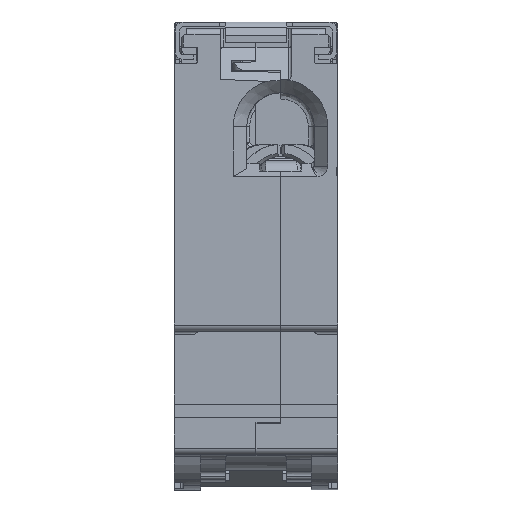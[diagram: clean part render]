
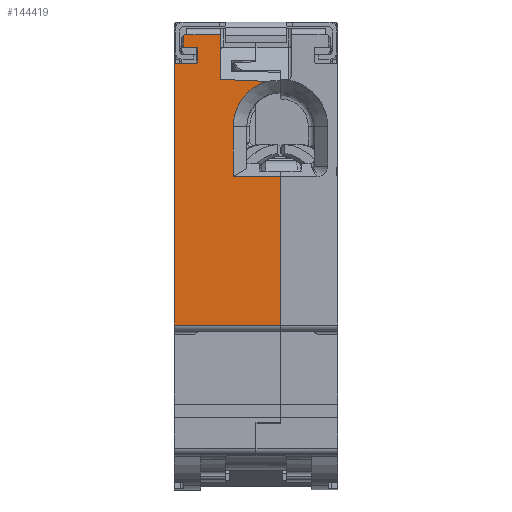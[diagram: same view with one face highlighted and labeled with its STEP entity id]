
A CAD part, left-side view. The second image highlights one B-rep face of the part: STEP entity #144419.
In plain terms, the highlighted planar face has unit normal (-1, 0, 0).
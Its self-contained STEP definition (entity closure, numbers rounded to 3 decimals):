
#1286 = CARTESIAN_POINT ( 'NONE',  ( -32.9, 22.8, 60.5 ) ) ;
#1630 = ORIENTED_EDGE ( 'NONE', *, *, #133896, .F. ) ;
#1695 = ORIENTED_EDGE ( 'NONE', *, *, #105043, .T. ) ;
#2163 = EDGE_CURVE ( 'NONE', #43042, #57099, #72910, .T. ) ;
#2171 = VERTEX_POINT ( 'NONE', #45574 ) ;
#3331 = EDGE_CURVE ( 'NONE', #99883, #41895, #149233, .T. ) ;
#3383 = ORIENTED_EDGE ( 'NONE', *, *, #157490, .T. ) ;
#8137 = CARTESIAN_POINT ( 'NONE',  ( -32.9, 25.2, 64.6 ) ) ;
#10448 = VERTEX_POINT ( 'NONE', #123854 ) ;
#11751 = AXIS2_PLACEMENT_3D ( 'NONE', #30036, #77953, #139132 ) ;
#11923 = VERTEX_POINT ( 'NONE', #72966 ) ;
#15973 = ORIENTED_EDGE ( 'NONE', *, *, #45195, .T. ) ;
#17702 = CIRCLE ( 'NONE', #133644, 0.2 ) ;
#19205 = EDGE_LOOP ( 'NONE', ( #149175, #136425, #20338, #53456, #83475, #83009, #1695, #156388, #15973, #85886, #51637, #1630, #41402, #3383, #65468, #68244 ) ) ;
#20027 = EDGE_CURVE ( 'NONE', #103694, #10448, #41009, .T. ) ;
#20338 = ORIENTED_EDGE ( 'NONE', *, *, #32963, .T. ) ;
#20746 = LINE ( 'NONE', #101038, #93219 ) ;
#21006 = CARTESIAN_POINT ( 'NONE',  ( -32.9, 25.4, 64.4 ) ) ;
#21203 = DIRECTION ( 'NONE',  ( 0., 1., 0. ) ) ;
#22835 = CARTESIAN_POINT ( 'NONE',  ( -32.9, 22.8, 62.756 ) ) ;
#23531 = LINE ( 'NONE', #108445, #149226 ) ;
#23912 = PLANE ( 'NONE',  #119433 ) ;
#24829 = CARTESIAN_POINT ( 'NONE',  ( -32.9, 26.6, 62.9 ) ) ;
#24879 = EDGE_CURVE ( 'NONE', #57099, #42939, #85369, .T. ) ;
#26220 = VECTOR ( 'NONE', #106198, 1000. ) ;
#30036 = CARTESIAN_POINT ( 'NONE',  ( -32.9, 9.3, 49.95 ) ) ;
#30713 = DIRECTION ( 'NONE',  ( 0., 0., -1. ) ) ;
#31395 = CARTESIAN_POINT ( 'NONE',  ( -32.9, 22.898, 62.88 ) ) ;
#32963 = EDGE_CURVE ( 'NONE', #42939, #103694, #148111, .T. ) ;
#33346 = VECTOR ( 'NONE', #87252, 1000. ) ;
#33896 = VERTEX_POINT ( 'NONE', #145958 ) ;
#34031 = DIRECTION ( 'NONE',  ( 0., 0., -1. ) ) ;
#36199 = DIRECTION ( 'NONE',  ( -1., 0., 0. ) ) ;
#36329 = CARTESIAN_POINT ( 'NONE',  ( -32.9, 26.6, 64.9 ) ) ;
#40981 = DIRECTION ( 'NONE',  ( 0., 1., 0. ) ) ;
#41009 = LINE ( 'NONE', #125526, #33346 ) ;
#41402 = ORIENTED_EDGE ( 'NONE', *, *, #3331, .T. ) ;
#41895 = VERTEX_POINT ( 'NONE', #77208 ) ;
#42495 = VECTOR ( 'NONE', #51556, 1000. ) ;
#42928 = CARTESIAN_POINT ( 'NONE',  ( -32.9, 26.6, 66.7 ) ) ;
#42939 = VERTEX_POINT ( 'NONE', #130556 ) ;
#43042 = VERTEX_POINT ( 'NONE', #156151 ) ;
#45195 = EDGE_CURVE ( 'NONE', #33896, #92623, #59068, .T. ) ;
#45574 = CARTESIAN_POINT ( 'NONE',  ( -32.9, 17., 49.95 ) ) ;
#46083 = DIRECTION ( 'NONE',  ( 0., 0., 1. ) ) ;
#46222 = DIRECTION ( 'NONE',  ( 0., 0., -1. ) ) ;
#46289 = CARTESIAN_POINT ( 'NONE',  ( -32.9, 22.8, 66.7 ) ) ;
#48990 = VERTEX_POINT ( 'NONE', #79239 ) ;
#49466 = EDGE_CURVE ( 'NONE', #92623, #53265, #92819, .T. ) ;
#51556 = DIRECTION ( 'NONE',  ( 0., 0.999, 0.044 ) ) ;
#51637 = ORIENTED_EDGE ( 'NONE', *, *, #78384, .F. ) ;
#53265 = VERTEX_POINT ( 'NONE', #60704 ) ;
#53456 = ORIENTED_EDGE ( 'NONE', *, *, #20027, .T. ) ;
#56244 = VECTOR ( 'NONE', #73829, 1000. ) ;
#57099 = VERTEX_POINT ( 'NONE', #118195 ) ;
#58103 = EDGE_CURVE ( 'NONE', #2171, #11923, #132043, .T. ) ;
#59068 = LINE ( 'NONE', #101095, #79923 ) ;
#60704 = CARTESIAN_POINT ( 'NONE',  ( -32.9, 26.6, 17.6 ) ) ;
#63299 = DIRECTION ( 'NONE',  ( 0., 0., 1. ) ) ;
#63840 = EDGE_CURVE ( 'NONE', #10448, #90679, #107656, .T. ) ;
#65468 = ORIENTED_EDGE ( 'NONE', *, *, #58103, .T. ) ;
#68099 = VECTOR ( 'NONE', #76954, 1000. ) ;
#68244 = ORIENTED_EDGE ( 'NONE', *, *, #151386, .T. ) ;
#69107 = VECTOR ( 'NONE', #46083, 1000. ) ;
#70809 = CARTESIAN_POINT ( 'NONE',  ( -32.9, 22.82, 62.803 ) ) ;
#71522 = LINE ( 'NONE', #46289, #126785 ) ;
#72910 = LINE ( 'NONE', #156244, #69107 ) ;
#72966 = CARTESIAN_POINT ( 'NONE',  ( -32.9, 11.54, 57.317 ) ) ;
#73829 = DIRECTION ( 'NONE',  ( 0., -1., 0. ) ) ;
#74767 = EDGE_CURVE ( 'NONE', #90679, #48990, #85416, .T. ) ;
#75955 = CARTESIAN_POINT ( 'NONE',  ( -32.9, 26.6, 60.3 ) ) ;
#76954 = DIRECTION ( 'NONE',  ( 0., 0., -1. ) ) ;
#77208 = CARTESIAN_POINT ( 'NONE',  ( -32.9, 17., 41.817 ) ) ;
#77953 = DIRECTION ( 'NONE',  ( 1., 0., 0. ) ) ;
#78384 = EDGE_CURVE ( 'NONE', #89923, #53265, #133798, .T. ) ;
#79239 = CARTESIAN_POINT ( 'NONE',  ( -32.9, 22.8, 62.7 ) ) ;
#79923 = VECTOR ( 'NONE', #40981, 1000. ) ;
#83009 = ORIENTED_EDGE ( 'NONE', *, *, #74767, .T. ) ;
#83475 = ORIENTED_EDGE ( 'NONE', *, *, #63840, .T. ) ;
#85369 = LINE ( 'NONE', #36329, #133011 ) ;
#85416 = B_SPLINE_CURVE_WITH_KNOTS ( 'NONE', 3,
 ( #95276, #104263, #31395, #70809, #22835, #108036 ),
 .UNSPECIFIED., .F., .F.,
 ( 4, 2, 4 ),
 ( 0., 0.5, 1. ),
 .UNSPECIFIED. ) ;
#85886 = ORIENTED_EDGE ( 'NONE', *, *, #49466, .T. ) ;
#87188 = CARTESIAN_POINT ( 'NONE',  ( -32.9, 11.54, 57.317 ) ) ;
#87252 = DIRECTION ( 'NONE',  ( 0., 0., -1. ) ) ;
#89299 = DIRECTION ( 'NONE',  ( 1., 0., 0. ) ) ;
#89923 = VERTEX_POINT ( 'NONE', #137813 ) ;
#90679 = VERTEX_POINT ( 'NONE', #120969 ) ;
#92623 = VERTEX_POINT ( 'NONE', #75955 ) ;
#92819 = LINE ( 'NONE', #42928, #68099 ) ;
#93219 = VECTOR ( 'NONE', #63299, 1000. ) ;
#94188 = CARTESIAN_POINT ( 'NONE',  ( -32.9, 9.114, 17.6 ) ) ;
#95276 = CARTESIAN_POINT ( 'NONE',  ( -32.9, 23., 62.9 ) ) ;
#97394 = CARTESIAN_POINT ( 'NONE',  ( -32.9, 26.6, 66.7 ) ) ;
#97526 = DIRECTION ( 'NONE',  ( 0., 1., 0. ) ) ;
#99883 = VERTEX_POINT ( 'NONE', #131501 ) ;
#101038 = CARTESIAN_POINT ( 'NONE',  ( -32.9, 17., 66.7 ) ) ;
#101095 = CARTESIAN_POINT ( 'NONE',  ( -32.9, 26.6, 60.3 ) ) ;
#103694 = VERTEX_POINT ( 'NONE', #8137 ) ;
#104263 = CARTESIAN_POINT ( 'NONE',  ( -32.9, 22.945, 62.9 ) ) ;
#105043 = EDGE_CURVE ( 'NONE', #48990, #112378, #71522, .T. ) ;
#106198 = DIRECTION ( 'NONE',  ( 0., 0.707, -0.707 ) ) ;
#107204 = LINE ( 'NONE', #87188, #42495 ) ;
#107656 = LINE ( 'NONE', #24829, #56244 ) ;
#108036 = CARTESIAN_POINT ( 'NONE',  ( -32.9, 22.8, 62.7 ) ) ;
#108051 = DIRECTION ( 'NONE',  ( 0., 0., 1. ) ) ;
#108445 = CARTESIAN_POINT ( 'NONE',  ( -32.9, 9.3, 66.7 ) ) ;
#110791 = CARTESIAN_POINT ( 'NONE',  ( -32.9, 26.6, 41.817 ) ) ;
#110918 = VECTOR ( 'NONE', #21203, 1000. ) ;
#112378 = VERTEX_POINT ( 'NONE', #1286 ) ;
#116860 = VECTOR ( 'NONE', #125606, 1000. ) ;
#118195 = CARTESIAN_POINT ( 'NONE',  ( -32.9, 19.1, 64.9 ) ) ;
#119433 = AXIS2_PLACEMENT_3D ( 'NONE', #97394, #36199, #108051 ) ;
#120969 = CARTESIAN_POINT ( 'NONE',  ( -32.9, 23., 62.9 ) ) ;
#123854 = CARTESIAN_POINT ( 'NONE',  ( -32.9, 25.2, 62.9 ) ) ;
#125526 = CARTESIAN_POINT ( 'NONE',  ( -32.9, 25.2, 66.7 ) ) ;
#125606 = DIRECTION ( 'NONE',  ( 0., 1., 0. ) ) ;
#125994 = CARTESIAN_POINT ( 'NONE',  ( -32.9, 23., 60.5 ) ) ;
#126785 = VECTOR ( 'NONE', #34031, 1000. ) ;
#130556 = CARTESIAN_POINT ( 'NONE',  ( -32.9, 24.9, 64.9 ) ) ;
#131501 = CARTESIAN_POINT ( 'NONE',  ( -32.9, 9.3, 41.817 ) ) ;
#132043 = CIRCLE ( 'NONE', #11751, 7.7 ) ;
#133011 = VECTOR ( 'NONE', #97526, 1000. ) ;
#133644 = AXIS2_PLACEMENT_3D ( 'NONE', #125994, #89299, #30713 ) ;
#133798 = LINE ( 'NONE', #94188, #110918 ) ;
#133896 = EDGE_CURVE ( 'NONE', #99883, #89923, #23531, .T. ) ;
#136425 = ORIENTED_EDGE ( 'NONE', *, *, #24879, .T. ) ;
#137813 = CARTESIAN_POINT ( 'NONE',  ( -32.9, 9.3, 17.6 ) ) ;
#139132 = DIRECTION ( 'NONE',  ( 0., 0., 1. ) ) ;
#144419 = ADVANCED_FACE ( 'NONE', ( #150501 ), #23912, .T. ) ;
#145958 = CARTESIAN_POINT ( 'NONE',  ( -32.9, 23., 60.3 ) ) ;
#148111 = LINE ( 'NONE', #21006, #26220 ) ;
#149175 = ORIENTED_EDGE ( 'NONE', *, *, #2163, .T. ) ;
#149226 = VECTOR ( 'NONE', #46222, 1000. ) ;
#149233 = LINE ( 'NONE', #110791, #116860 ) ;
#150501 = FACE_OUTER_BOUND ( 'NONE', #19205, .T. ) ;
#151386 = EDGE_CURVE ( 'NONE', #11923, #43042, #107204, .T. ) ;
#154842 = EDGE_CURVE ( 'NONE', #112378, #33896, #17702, .T. ) ;
#156151 = CARTESIAN_POINT ( 'NONE',  ( -32.9, 19.1, 57.65 ) ) ;
#156244 = CARTESIAN_POINT ( 'NONE',  ( -32.9, 19.1, 66.7 ) ) ;
#156388 = ORIENTED_EDGE ( 'NONE', *, *, #154842, .T. ) ;
#157490 = EDGE_CURVE ( 'NONE', #41895, #2171, #20746, .T. ) ;
